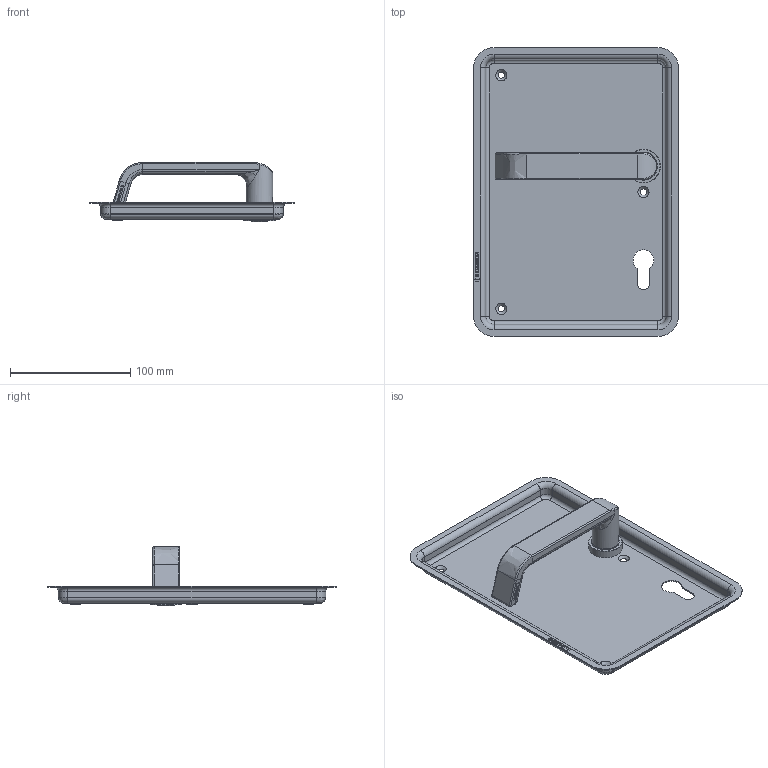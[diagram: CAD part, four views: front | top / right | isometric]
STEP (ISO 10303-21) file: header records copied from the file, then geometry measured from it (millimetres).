
FILE_DESCRIPTION(/* description */ (''),/* implementation_level */ '2;1');
FILE_NAME(/* name */ 'C:\ADSK_DMS_WS\Designs\Vorschläge\Loc Schalen\Muschel Serie 3\S3.13.D2Links\Heusser-Muschel S3.13.D2.378L.stp',/* time_stamp */ '2020-11-21T08:50:04+01:00',/* author */ ('gm'),/* organization */ (''),/* preprocessor_version */ 'ST-DEVELOPER v16.5',/* originating_system */ 'Autodesk Inventor 2017',/* authorisation */ '');
FILE_SCHEMA (('AUTOMOTIVE_DESIGN { 1 0 10303 214 3 1 1 }'));
Length unit declared in the file: millimetre
Products named in the file (1): S3.13.D1.L
Bounding box: 170 x 240 x 49 mm (x, y, z)
Volume: 89812.4 mm3; surface area: 109832 mm2
Topology: 1 solids, 2 shells, 613 faces, 1607 edges, 1040 vertices
Faces by surface type: plane 296, bspline 212, cylinder 72, torus 17, cone 16
Full cylindrical faces by diameter (mm): 1.7 x2, 6 x1, 16 x3, 18 x1, 19 x1, 19.1 x1, 22 x1, 23 x1, 23.2 x1, 24 x1, 25 x1, 26 x1, 28 x1
Entity records: 20974 total; most frequent: CARTESIAN_POINT 6413, ORIENTED_EDGE 3130, DIRECTION 2335, EDGE_CURVE 1565, VERTEX_POINT 1034, LINE 963, VECTOR 963, EDGE_LOOP 707
